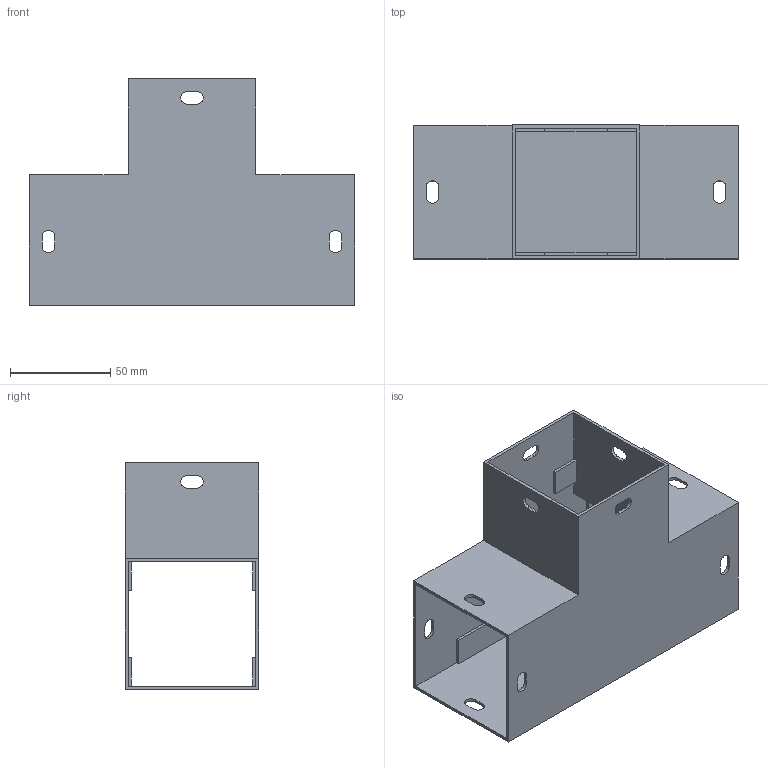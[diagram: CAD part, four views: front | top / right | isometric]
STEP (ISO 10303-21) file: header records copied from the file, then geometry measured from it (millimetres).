
FILE_DESCRIPTION((''),'1');
FILE_NAME('1','2001-04-18T',('jlue'),(''),'PRO/ENGINEER BY PARAMETRIC TECHNOLOGY CORPORATION, 9846','PRO/ENGINEER BY PARAMETRIC TECHNOLOGY CORPORATION, 9846','');
FILE_SCHEMA(('CONFIG_CONTROL_DESIGN'));
Length unit declared in the file: inch
Products named in the file (1): 1
Bounding box: 161.93 x 66.54 x 112.77 mm (x, y, z)
Surface area: 100464.4 mm2 (no closed solid volume)
Topology: 0 solids, 0 shells, 105 faces, 660 edges, 672 vertices
Faces by surface type: plane 81, cylinder 24
Entity records: 3280 total; most frequent: COMPOSITE_CURVE_SEGMENT 648, DIRECTION 630, CARTESIAN_POINT 453, TRIMMED_CURVE 348, VECTOR 276, LINE 276, AXIS2_PLACEMENT_3D 177, CURVE_BOUNDED_SURFACE 105
